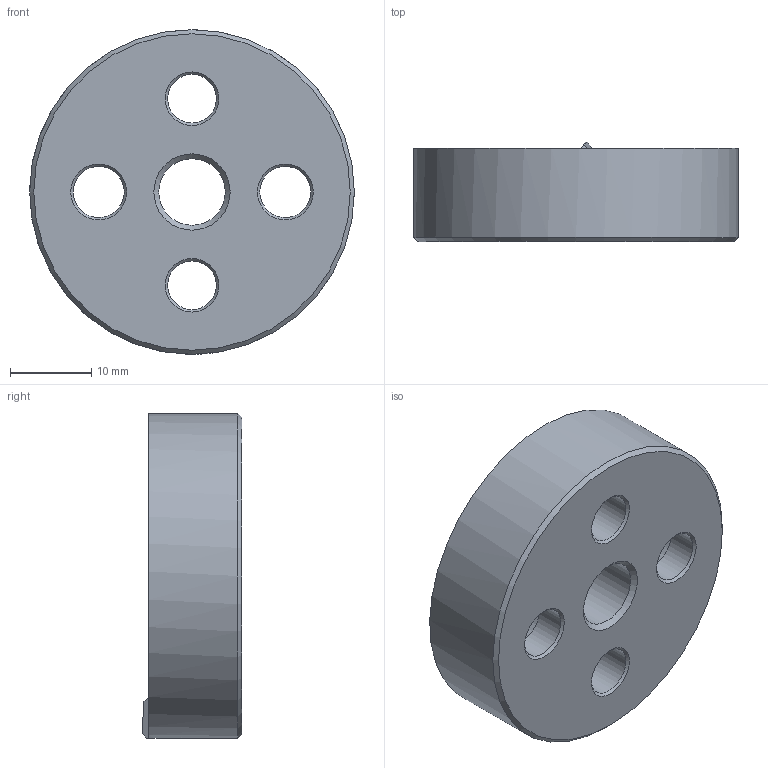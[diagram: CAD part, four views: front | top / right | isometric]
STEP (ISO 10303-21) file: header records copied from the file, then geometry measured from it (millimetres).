
FILE_DESCRIPTION( ( 'STEP AP203' ), '1' );
FILE_NAME( 'C:/Temp/Ganter_Step_05_03_2020/data/3_2/gn187_4/gn187_4_st/Serrated locking plate GN 187.4-40-48-B-ST.stp', '2020-03-13T05:25:39', ( 'License CC BY-ND 4.0' ), ( 'CADENAS' ), ' ', 'PARTsolutions', ' ' );
FILE_SCHEMA( ( 'CONFIG_CONTROL_DESIGN' ) );
Length unit declared in the file: millimetre
Products named in the file (1): _Serrated locking plate GN 187.4-40-48-B-ST
Bounding box: 40 x 12.32 x 40 mm (x, y, z)
Volume: 10831.5 mm3; surface area: 4912.1 mm2
Topology: 1 solids, 1 shells, 33 faces, 85 edges, 54 vertices
Faces by surface type: cone 12, cylinder 12, plane 9
Full cylindrical faces by diameter (mm): 6 x2, 6.3 x2, 8.2 x1, 11 x2, 40 x1
Entity records: 1044 total; most frequent: CARTESIAN_POINT 250, DIRECTION 166, ORIENTED_EDGE 128, AXIS2_PLACEMENT_3D 78, EDGE_CURVE 64, EDGE_LOOP 60, VERTEX_POINT 50, FACE_OUTER_BOUND 41
